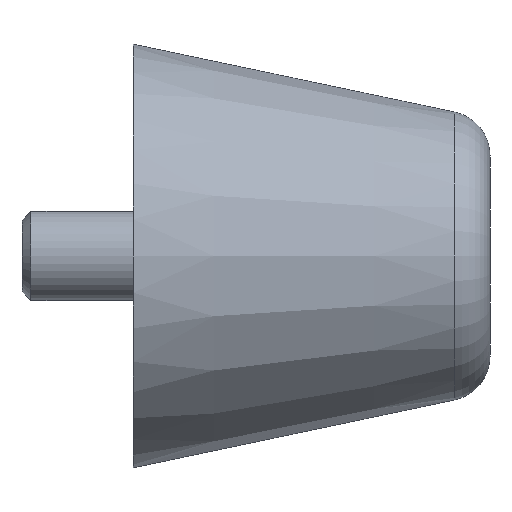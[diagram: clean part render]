
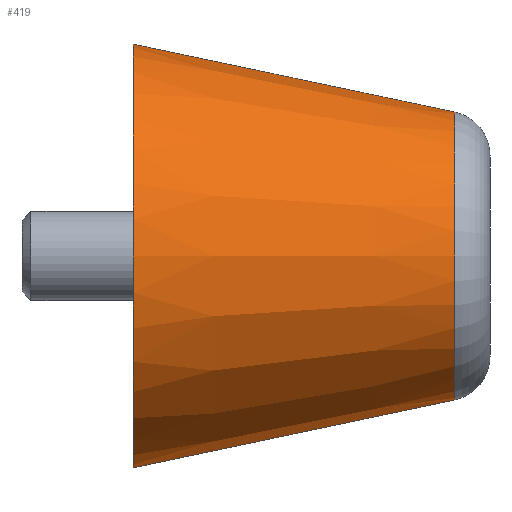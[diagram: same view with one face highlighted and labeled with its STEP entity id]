
A CAD part, left-side view. The second image highlights one B-rep face of the part: STEP entity #419.
In plain terms, the highlighted conical face has half-angle 11.911 degrees and reference radius 12.25 mm.
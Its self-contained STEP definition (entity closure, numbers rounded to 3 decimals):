
#12 = CARTESIAN_POINT ( 'NONE',  ( 0., 32., 0. ) ) ;
#39 = ORIENTED_EDGE ( 'NONE', *, *, #376, .T. ) ;
#41 = DIRECTION ( 'NONE',  ( 0., 0.978, -0.206 ) ) ;
#51 = VECTOR ( 'NONE', #41, 1000. ) ;
#53 = DIRECTION ( 'NONE',  ( 0., 0.978, 0.206 ) ) ;
#97 = EDGE_LOOP ( 'NONE', ( #418, #423, #39, #367 ) ) ;
#111 = VERTEX_POINT ( 'NONE', #387 ) ;
#121 = DIRECTION ( 'NONE',  ( 0., 1., 0. ) ) ;
#141 = CARTESIAN_POINT ( 'NONE',  ( 0., 32., -19. ) ) ;
#174 = CARTESIAN_POINT ( 'NONE',  ( 0., 32., 19. ) ) ;
#180 = CARTESIAN_POINT ( 'NONE',  ( 0., 3.174, -12.92 ) ) ;
#197 = DIRECTION ( 'NONE',  ( 0., 0., 1. ) ) ;
#200 = EDGE_CURVE ( 'NONE', #506, #362, #445, .T. ) ;
#224 = CARTESIAN_POINT ( 'NONE',  ( 0., 0., 0. ) ) ;
#260 = EDGE_CURVE ( 'NONE', #531, #111, #315, .T. ) ;
#267 = DIRECTION ( 'NONE',  ( 0., 0., -1. ) ) ;
#269 = EDGE_CURVE ( 'NONE', #531, #362, #380, .T. ) ;
#275 = FACE_OUTER_BOUND ( 'NONE', #97, .T. ) ;
#304 = DIRECTION ( 'NONE',  ( 0., 0., -1. ) ) ;
#307 = CONICAL_SURFACE ( 'NONE', #454, 12.25, 0.208 ) ;
#315 = CIRCLE ( 'NONE', #403, 12.92 ) ;
#328 = AXIS2_PLACEMENT_3D ( 'NONE', #12, #484, #267 ) ;
#362 = VERTEX_POINT ( 'NONE', #141 ) ;
#367 = ORIENTED_EDGE ( 'NONE', *, *, #200, .T. ) ;
#373 = DIRECTION ( 'NONE',  ( 0., 1., 0. ) ) ;
#376 = EDGE_CURVE ( 'NONE', #111, #506, #490, .T. ) ;
#380 = LINE ( 'NONE', #432, #51 ) ;
#387 = CARTESIAN_POINT ( 'NONE',  ( 0., 3.174, 12.92 ) ) ;
#393 = CARTESIAN_POINT ( 'NONE',  ( 0., 3.174, 0. ) ) ;
#403 = AXIS2_PLACEMENT_3D ( 'NONE', #393, #121, #304 ) ;
#407 = CARTESIAN_POINT ( 'NONE',  ( 0., 0., 12.25 ) ) ;
#418 = ORIENTED_EDGE ( 'NONE', *, *, #269, .F. ) ;
#419 = ADVANCED_FACE ( 'NONE', ( #275 ), #307, .T. ) ;
#423 = ORIENTED_EDGE ( 'NONE', *, *, #260, .T. ) ;
#432 = CARTESIAN_POINT ( 'NONE',  ( 0., 0., -12.25 ) ) ;
#445 = CIRCLE ( 'NONE', #328, 19. ) ;
#454 = AXIS2_PLACEMENT_3D ( 'NONE', #224, #373, #197 ) ;
#484 = DIRECTION ( 'NONE',  ( 0., -1., 0. ) ) ;
#490 = LINE ( 'NONE', #407, #543 ) ;
#506 = VERTEX_POINT ( 'NONE', #174 ) ;
#531 = VERTEX_POINT ( 'NONE', #180 ) ;
#543 = VECTOR ( 'NONE', #53, 1000. ) ;
